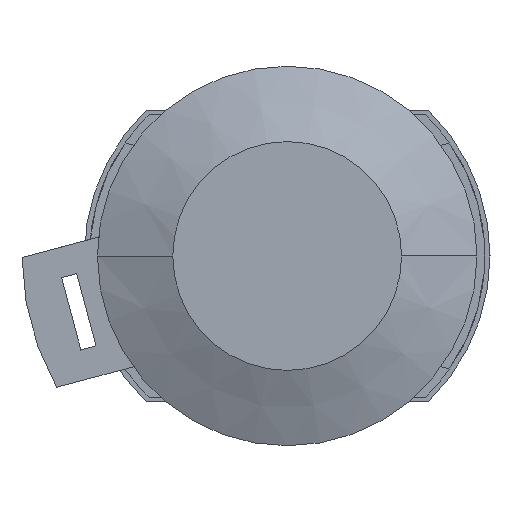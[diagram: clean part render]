
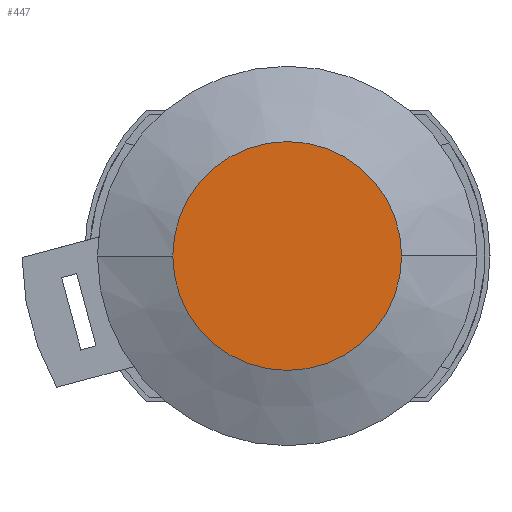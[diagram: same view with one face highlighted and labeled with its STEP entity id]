
A CAD part, left-side view. The second image highlights one B-rep face of the part: STEP entity #447.
In plain terms, the highlighted planar face has unit normal (-1, 0, 0).
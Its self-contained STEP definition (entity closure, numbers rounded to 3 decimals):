
#210 = ORIENTED_EDGE ( 'NONE', *, *, #285, .F. ) ;
#285 = EDGE_CURVE ( 'NONE', #3884, #3683, #1610, .T. ) ;
#398 = EDGE_CURVE ( 'NONE', #3683, #3884, #1841, .T. ) ;
#447 = ADVANCED_FACE ( 'NONE', ( #1949 ), #1950, .T. ) ;
#517 = EDGE_LOOP ( 'NONE', ( #645, #210 ) ) ;
#645 = ORIENTED_EDGE ( 'NONE', *, *, #398, .F. ) ;
#1610 = CIRCLE ( 'NONE', #1611, 11. ) ;
#1611 = AXIS2_PLACEMENT_3D ( 'NONE', #1612, #1613, #1614 ) ;
#1612 = CARTESIAN_POINT ( 'NONE',  ( -12.5, 0., 0. ) ) ;
#1613 = DIRECTION ( 'NONE',  ( 1., 0., 0. ) ) ;
#1614 = DIRECTION ( 'NONE',  ( 0., 1., 0. ) ) ;
#1841 = CIRCLE ( 'NONE', #1842, 11. ) ;
#1842 = AXIS2_PLACEMENT_3D ( 'NONE', #1845, #1846, #1847 ) ;
#1845 = CARTESIAN_POINT ( 'NONE',  ( -12.5, 0., 0. ) ) ;
#1846 = DIRECTION ( 'NONE',  ( 1., 0., 0. ) ) ;
#1847 = DIRECTION ( 'NONE',  ( 0., 1., 0. ) ) ;
#1949 = FACE_OUTER_BOUND ( 'NONE', #517, .T. ) ;
#1950 = PLANE ( 'NONE',  #1951 ) ;
#1951 = AXIS2_PLACEMENT_3D ( 'NONE', #1952, #1953, #1954 ) ;
#1952 = CARTESIAN_POINT ( 'NONE',  ( -12.5, 5.5, 0. ) ) ;
#1953 = DIRECTION ( 'NONE',  ( -1., 0., 0. ) ) ;
#1954 = DIRECTION ( 'NONE',  ( 0., 0., 1. ) ) ;
#3683 = VERTEX_POINT ( 'NONE', #5144 ) ;
#3884 = VERTEX_POINT ( 'NONE', #5260 ) ;
#5144 = CARTESIAN_POINT ( 'NONE',  ( -12.5, 11., 0. ) ) ;
#5260 = CARTESIAN_POINT ( 'NONE',  ( -12.5, -11., 0. ) ) ;
